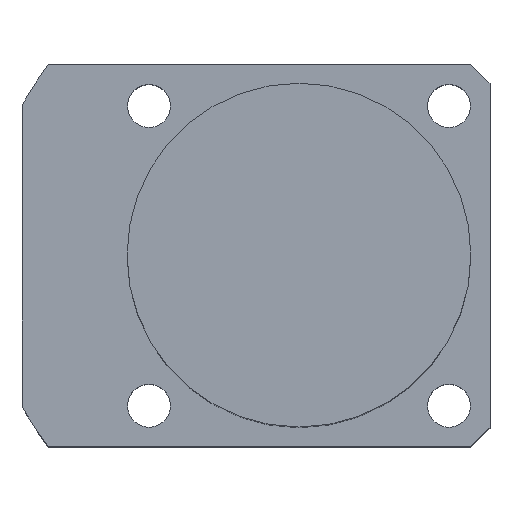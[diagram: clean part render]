
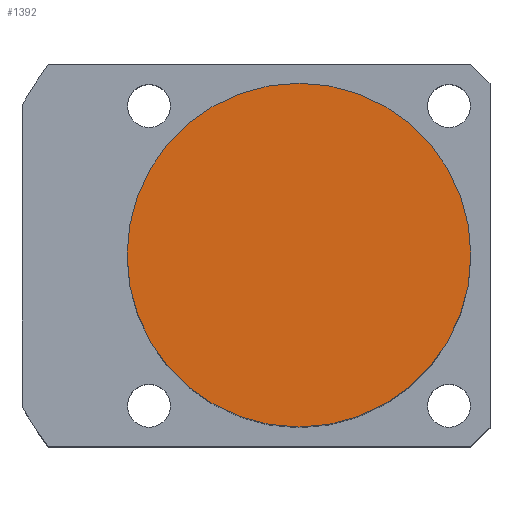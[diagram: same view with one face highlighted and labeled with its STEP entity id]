
A CAD part, top view. The second image highlights one B-rep face of the part: STEP entity #1392.
In plain terms, the highlighted planar face has unit normal (0, 0, 1).
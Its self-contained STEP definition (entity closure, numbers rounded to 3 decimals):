
#1334=CARTESIAN_POINT('',(-0.0,18.0,53.5));
#1335=VERTEX_POINT('',#1334);
#1342=CARTESIAN_POINT('',(18.0,0.0,53.5));
#1343=VERTEX_POINT('',#1342);
#1344=CARTESIAN_POINT('',(0.0,0.0,53.5));
#1345=DIRECTION('',(0.0,0.0,1.0));
#1346=DIRECTION('',(1.0,0.0,0.0));
#1347=AXIS2_PLACEMENT_3D('',#1344,#1345,#1346);
#1348=CIRCLE('',#1347,18.0);
#1349=EDGE_CURVE('no 1757',#1343,#1335,#1348,.T.);
#1351=CARTESIAN_POINT('',(-0.0,-18.0,53.5));
#1352=VERTEX_POINT('',#1351);
#1353=CARTESIAN_POINT('',(0.0,0.0,53.5));
#1354=DIRECTION('',(0.0,0.0,1.0));
#1355=DIRECTION('',(1.0,0.0,0.0));
#1356=AXIS2_PLACEMENT_3D('',#1353,#1354,#1355);
#1357=CIRCLE('',#1356,18.0);
#1358=EDGE_CURVE('no 1763',#1352,#1343,#1357,.T.);
#1376=ORIENTED_EDGE('',*,*,#1349,.T.);
#1377=CARTESIAN_POINT('',(0.0,0.0,53.5));
#1378=DIRECTION('',(0.0,0.0,1.0));
#1379=DIRECTION('',(1.0,0.0,0.0));
#1380=AXIS2_PLACEMENT_3D('',#1377,#1378,#1379);
#1381=CIRCLE('',#1380,18.0);
#1382=EDGE_CURVE('no 1780',#1335,#1352,#1381,.T.);
#1383=ORIENTED_EDGE('',*,*,#1382,.T.);
#1384=ORIENTED_EDGE('',*,*,#1358,.T.);
#1385=EDGE_LOOP('',(#1376,#1383,#1384));
#1386=FACE_OUTER_BOUND('',#1385,.T.);
#1387=CARTESIAN_POINT('',(0.0,0.0,53.5));
#1388=DIRECTION('',(0.0,0.0,1.0));
#1389=DIRECTION('',(1.0,0.0,0.0));
#1390=AXIS2_PLACEMENT_3D('',#1387,#1388,#1389);
#1391=PLANE('',#1390);
#1392=ADVANCED_FACE('no 1773',(#1386),#1391,.T.);
